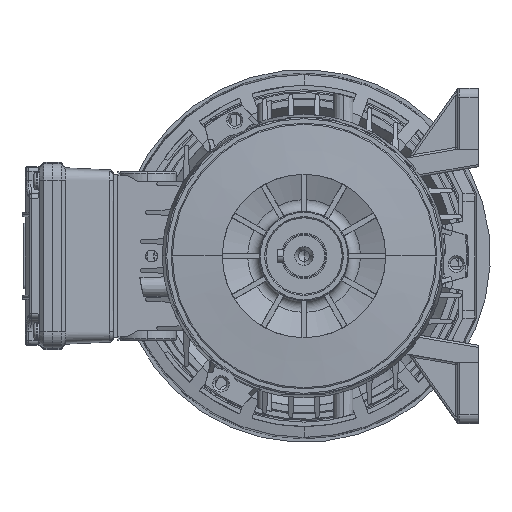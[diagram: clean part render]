
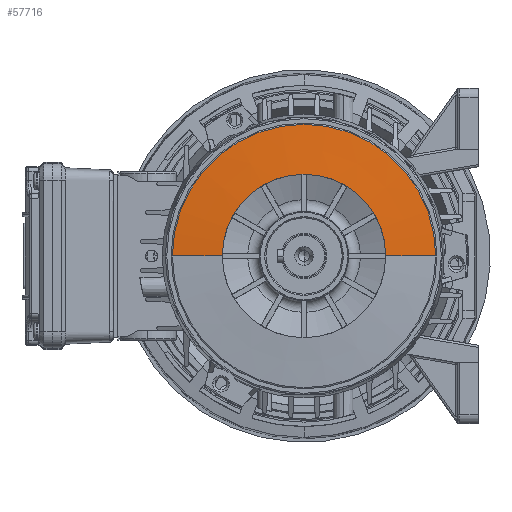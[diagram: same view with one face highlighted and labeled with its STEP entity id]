
A CAD part, left-side view. The second image highlights one B-rep face of the part: STEP entity #57716.
In plain terms, the highlighted conical face has half-angle 85 degrees and reference radius 60.452 mm.
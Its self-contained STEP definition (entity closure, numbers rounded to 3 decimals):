
#58 = EDGE_CURVE ( 'NONE', #63553, #22278, #47159, .T. ) ;
#99 = AXIS2_PLACEMENT_3D ( 'NONE', #32342, #93990, #41209 ) ;
#1185 = VECTOR ( 'NONE', #84159, 1000. ) ;
#1859 = EDGE_CURVE ( 'NONE', #32959, #29311, #79986, .T. ) ;
#2248 = DIRECTION ( 'NONE',  ( 0., 0., 1. ) ) ;
#2284 = DIRECTION ( 'NONE',  ( 0., 0., 1. ) ) ;
#4594 = CARTESIAN_POINT ( 'NONE',  ( 0., 0., -37.5 ) ) ;
#4833 = CARTESIAN_POINT ( 'NONE',  ( 0., 2.008, -60.452 ) ) ;
#6622 = ORIENTED_EDGE ( 'NONE', *, *, #64768, .T. ) ;
#7414 = CONICAL_SURFACE ( 'NONE', #103438, 60.452, 1.484 ) ;
#10169 = FACE_OUTER_BOUND ( 'NONE', #57389, .T. ) ;
#13163 = CARTESIAN_POINT ( 'NONE',  ( 0., 2.008, -60.452 ) ) ;
#18831 = CIRCLE ( 'NONE', #99, 60.452 ) ;
#22278 = VERTEX_POINT ( 'NONE', #41233 ) ;
#23668 = VECTOR ( 'NONE', #67806, 1000. ) ;
#27616 = ORIENTED_EDGE ( 'NONE', *, *, #82435, .F. ) ;
#29311 = VERTEX_POINT ( 'NONE', #4833 ) ;
#32291 = ORIENTED_EDGE ( 'NONE', *, *, #58, .F. ) ;
#32342 = CARTESIAN_POINT ( 'NONE',  ( 0., 2.008, 0. ) ) ;
#32959 = VERTEX_POINT ( 'NONE', #4594 ) ;
#41209 = DIRECTION ( 'NONE',  ( 0., 0., 1. ) ) ;
#41233 = CARTESIAN_POINT ( 'NONE',  ( 0., 2.008, 60.452 ) ) ;
#46321 = CARTESIAN_POINT ( 'NONE',  ( 0., 2.008, 0. ) ) ;
#47159 = LINE ( 'NONE', #93996, #23668 ) ;
#55181 = DIRECTION ( 'NONE',  ( 0., 1., 0. ) ) ;
#55223 = DIRECTION ( 'NONE',  ( 0., 1., 0. ) ) ;
#57389 = EDGE_LOOP ( 'NONE', ( #6622, #62377, #27616, #32291 ) ) ;
#57716 = ADVANCED_FACE ( 'NONE', ( #10169 ), #7414, .T. ) ;
#62377 = ORIENTED_EDGE ( 'NONE', *, *, #1859, .T. ) ;
#63553 = VERTEX_POINT ( 'NONE', #110879 ) ;
#64768 = EDGE_CURVE ( 'NONE', #63553, #32959, #88342, .T. ) ;
#67806 = DIRECTION ( 'NONE',  ( 0., 0.087, 0.996 ) ) ;
#79986 = LINE ( 'NONE', #13163, #1185 ) ;
#82435 = EDGE_CURVE ( 'NONE', #22278, #29311, #18831, .T. ) ;
#84159 = DIRECTION ( 'NONE',  ( 0., 0.087, -0.996 ) ) ;
#88342 = CIRCLE ( 'NONE', #101566, 37.5 ) ;
#93990 = DIRECTION ( 'NONE',  ( 0., 1., 0. ) ) ;
#93996 = CARTESIAN_POINT ( 'NONE',  ( 0., 2.008, 60.452 ) ) ;
#101566 = AXIS2_PLACEMENT_3D ( 'NONE', #107997, #55223, #2284 ) ;
#103438 = AXIS2_PLACEMENT_3D ( 'NONE', #46321, #55181, #2248 ) ;
#107997 = CARTESIAN_POINT ( 'NONE',  ( 0., 0., 0. ) ) ;
#110879 = CARTESIAN_POINT ( 'NONE',  ( 0., 0., 37.5 ) ) ;
